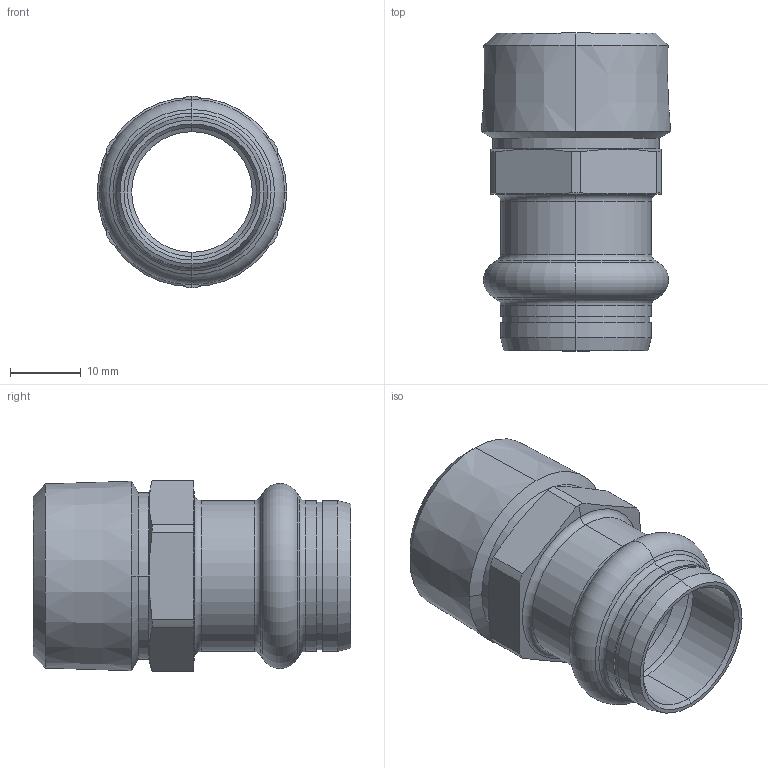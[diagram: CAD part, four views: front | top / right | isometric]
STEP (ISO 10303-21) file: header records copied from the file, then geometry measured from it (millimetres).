
FILE_DESCRIPTION (( 'STEP AP203' ), '1' );
FILE_NAME ('SP4243G Ø18 3-4.STEP', '2017-04-26T07:44:43', ( '' ), ( '' ), 'SwSTEP 2.0', 'SolidWorks 2016', '' );
FILE_SCHEMA (( 'CONFIG_CONTROL_DESIGN' ));
Length unit declared in the file: millimetre
Products named in the file (1): SP4243G Ø18 3-4
Bounding box: 26.71 x 44.8 x 27 mm (x, y, z)
Volume: 7241.9 mm3; surface area: 6948.9 mm2
Topology: 1 solids, 1 shells, 70 faces, 156 edges, 91 vertices
Faces by surface type: cylinder 25, cone 24, plane 11, torus 10
Entity records: 2062 total; most frequent: CARTESIAN_POINT 392, DIRECTION 371, ORIENTED_EDGE 312, AXIS2_PLACEMENT_3D 158, EDGE_CURVE 156, VERTEX_POINT 91, CIRCLE 87, EDGE_LOOP 75
